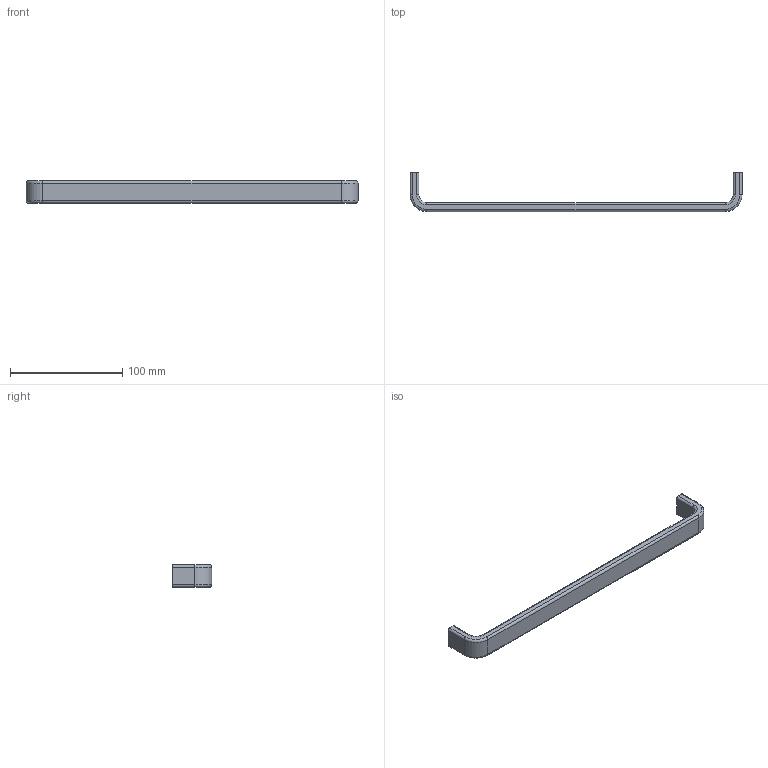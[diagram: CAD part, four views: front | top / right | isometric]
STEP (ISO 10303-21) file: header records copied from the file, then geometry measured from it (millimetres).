
FILE_DESCRIPTION( ( '' ), '1' );
FILE_NAME( 'C:/Documents and Settings/Sachin/Desktop/Sheet 10_1/stp/ 115152.stp', '2013-10-22T11:20:35', ( '' ), ( '' ), ' ', ' ', ' ' );
FILE_SCHEMA( ( 'CONFIG_CONTROL_DESIGN' ) );
Length unit declared in the file: millimetre
Products named in the file (1): 1
Bounding box: 296 x 35 x 20 mm (x, y, z)
Volume: 52927.2 mm3; surface area: 18529.2 mm2
Topology: 1 solids, 1 shells, 40 faces, 92 edges, 56 vertices
Faces by surface type: cylinder 20, plane 12, torus 8
Entity records: 1180 total; most frequent: DIRECTION 222, CARTESIAN_POINT 189, ORIENTED_EDGE 184, EDGE_CURVE 92, AXIS2_PLACEMENT_3D 89, VERTEX_POINT 56, CIRCLE 48, LINE 44
